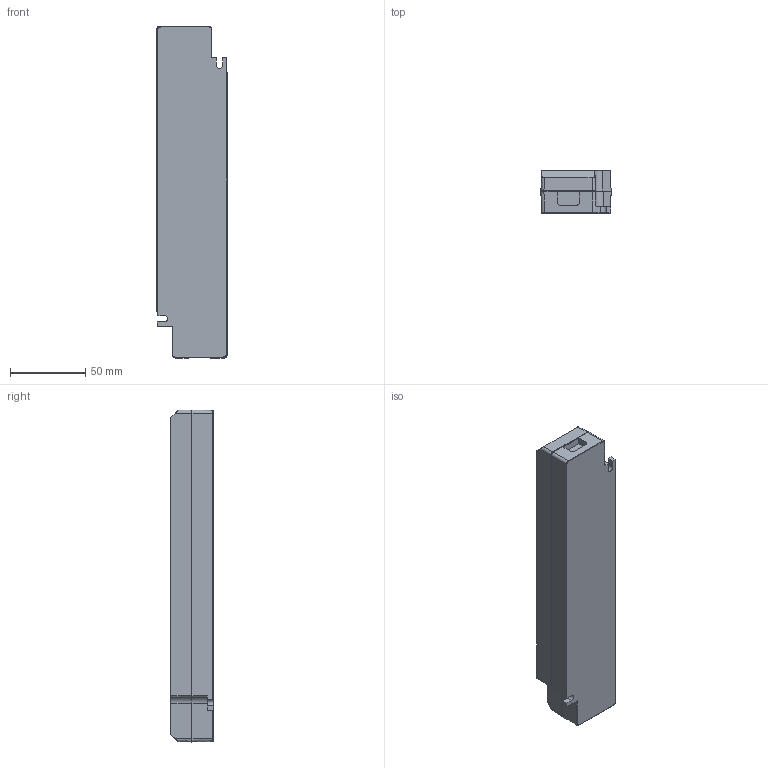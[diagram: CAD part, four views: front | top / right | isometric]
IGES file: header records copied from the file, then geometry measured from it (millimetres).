
Start section:  PTC IGES file: ll1x40-e-da_sr.igs
Global section: file name: ll1x40-e-da_sr.igs; native system: Pro/ENGINEER by Parametric Technology Corporation; preprocessor: 2003010; author: RUUSKA_TAPIO; organization: Unknown; date: 140305.095938; units: millimetre
Bounding box: 46.5 x 28 x 220 mm (x, y, z)
Volume: 263677.2 mm3; surface area: 34652.4 mm2
Topology: 1 solids, 1 shells, 94 faces, 258 edges, 168 vertices
Faces by surface type: bspline 60, revolution 34
